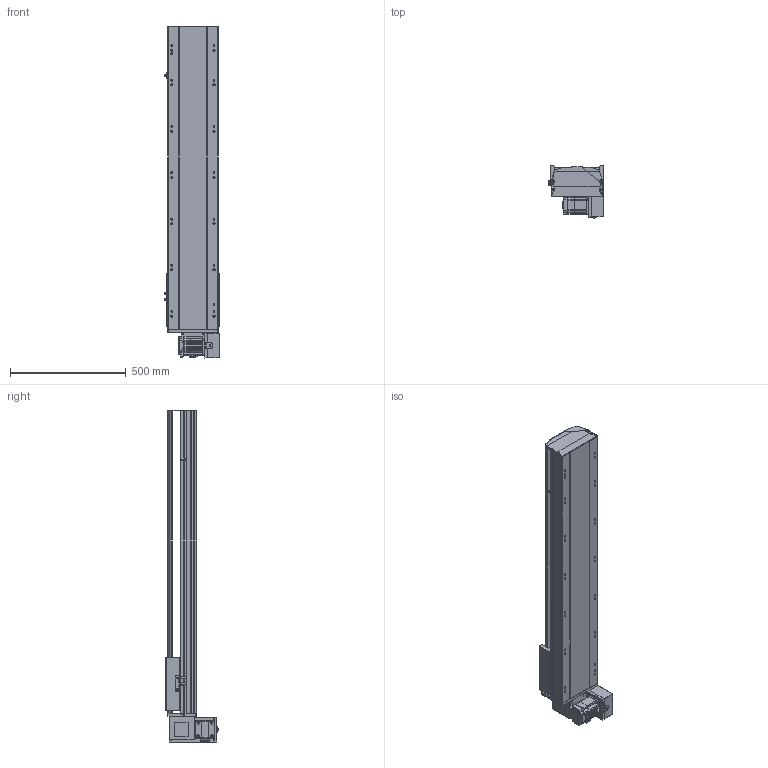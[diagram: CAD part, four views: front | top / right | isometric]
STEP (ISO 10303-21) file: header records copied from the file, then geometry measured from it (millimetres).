
FILE_DESCRIPTION (( 'STEP AP214' ), '1' );
FILE_NAME ('TPT22M-L40-950-LD-T75-C4.STEP', '2023-04-12T00:33:12', ( '' ), ( '' ), 'SwSTEP 2.0', 'SolidWorks 2020', '' );
FILE_SCHEMA (( 'AUTOMOTIVE_DESIGN' ));
Length unit declared in the file: millimetre
Products named in the file (9): TPT22M-L40-950-LD-T75-C4; 葩璃 TPT22-L-002 奻裔MZ-220-02^TPT22M-L40-LD-T75-C4; 葩璃 TPT22-L-005 賑釱MZ-220-03^TPT22M-L40-LD-T75-C4; 葩璃 TPT22-L-009 萇儂啣^TPT22M-L40-LD-T75-C4; 葩璃 MSMD08PC_P75^TPT22M-L40-LD-T75-C4; 葩璃 pm-t65-672^TPT22M-L40-LD-T75-C4; hexagon head bolts-full thread gb_GB_FASTENER_BOLT_STBAB A M5X16-N; 葩璃 TPT22-L-007 々湍釱^TPT22M-L40-LD-T75-C4; 葩璃 TPT22-L-001 菁釱MZ-220-01^TPT22M-L40-LD-T75-C4
Assembly tree (10 placements, depth 2):
  TPT22M-L40-950-LD-T75-C4
    葩璃 TPT22-L-001 菁釱MZ-220-01^TPT22M-L40-LD-T75-C4
    葩璃 TPT22-L-002 奻裔MZ-220-02^TPT22M-L40-LD-T75-C4
    葩璃 TPT22-L-005 賑釱MZ-220-03^TPT22M-L40-LD-T75-C4
    葩璃 TPT22-L-007 々湍釱^TPT22M-L40-LD-T75-C4
    葩璃 TPT22-L-009 萇儂啣^TPT22M-L40-LD-T75-C4
    葩璃 pm-t65-672^TPT22M-L40-LD-T75-C4  x3
    葩璃 MSMD08PC_P75^TPT22M-L40-LD-T75-C4
    hexagon head bolts-full thread gb_GB_FASTENER_BOLT_STBAB A M5X16-N
Bounding box: 239.2 x 225.65 x 1436 mm (x, y, z)
Volume: 19943230.8 mm3; surface area: 2163547.5 mm2
Topology: 17 solids, 17 shells, 1763 faces, 4661 edges, 2985 vertices
Faces by surface type: plane 977, cylinder 644, cone 120, bspline 22
Entity records: 50507 total; most frequent: CARTESIAN_POINT 10301, DIRECTION 8120, ORIENTED_EDGE 7866, EDGE_CURVE 3933, AXIS2_PLACEMENT_3D 2775, LINE 2570, VECTOR 2570, VERTEX_POINT 2557
